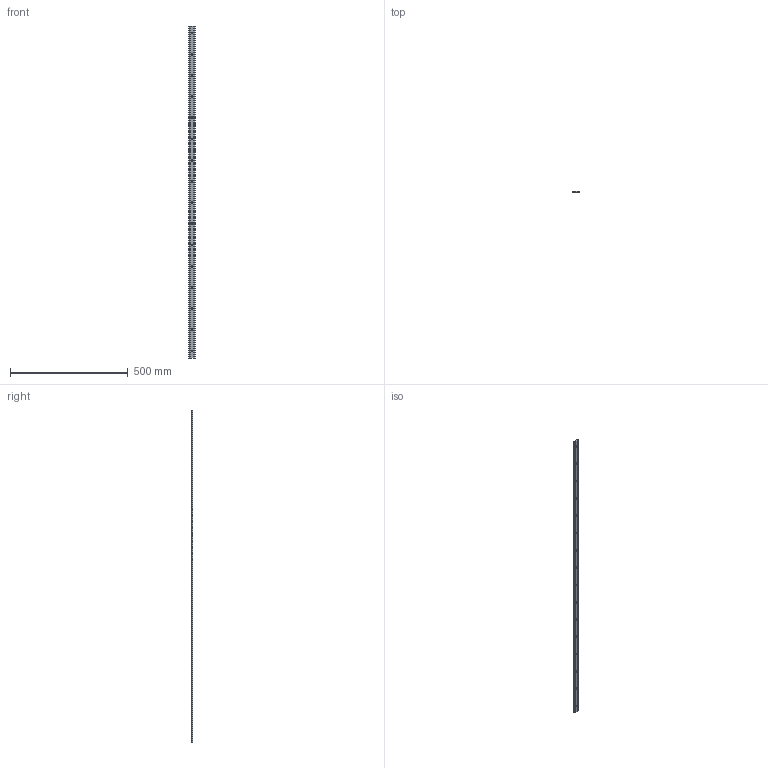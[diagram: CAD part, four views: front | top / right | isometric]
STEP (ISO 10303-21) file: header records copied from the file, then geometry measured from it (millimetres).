
FILE_DESCRIPTION(('STEP AP203'),'1');
FILE_NAME('//192.168.1.1/share/s-4 技術開発/s-4-4_CAD/s-4-4-6_見直し、確認済み/014 修正済み(済)/GF_TOP/GF-25C-1410.step','2022-03-14T00:50:30',(' '),(' '),'Spatial InterOp 3D',' ',' ');
FILE_SCHEMA(('CONFIG_CONTROL_DESIGN'));
Length unit declared in the file: millimetre
Products named in the file (1): 1
Bounding box: 25.75 x 5.18 x 1410 mm (x, y, z)
Volume: 161458.9 mm3; surface area: 81582.6 mm2
Topology: 1 solids, 1 shells, 66 faces, 176 edges, 112 vertices
Faces by surface type: cone 32, cylinder 20, plane 14
Full cylindrical faces by diameter (mm): 7 x16
Entity records: 1788 total; most frequent: DIRECTION 318, CARTESIAN_POINT 275, ORIENTED_EDGE 224, EDGE_LOOP 146, AXIS2_PLACEMENT_3D 139, EDGE_CURVE 112, VERTEX_POINT 96, FACE_OUTER_BOUND 82
